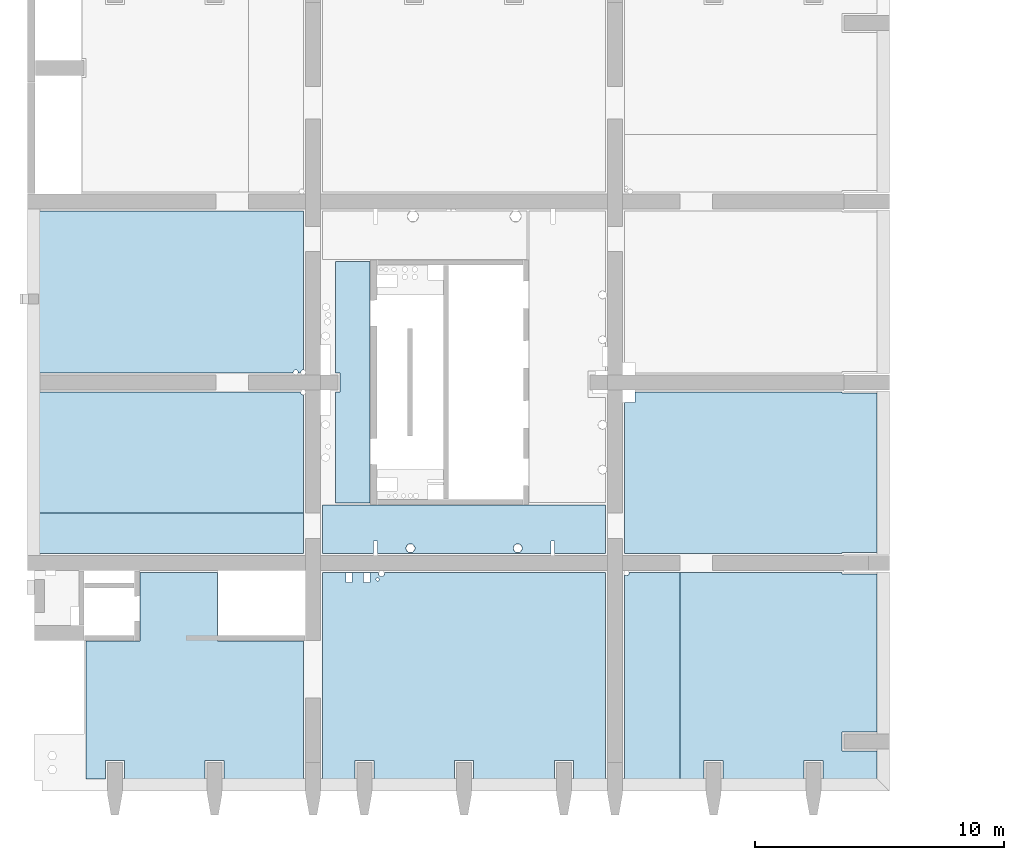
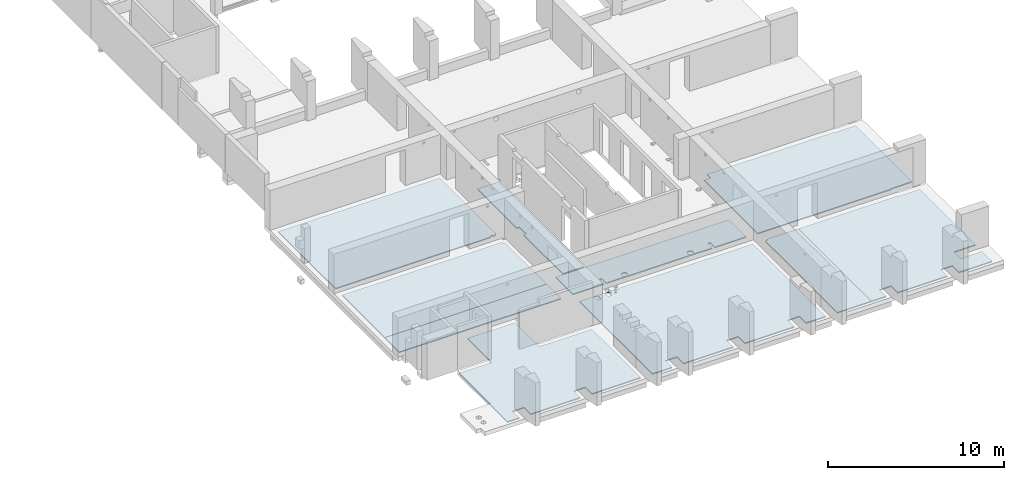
# One storey, part 5 of 10: 10 slabs, 66 openings.
"""IFC2X3 building model written with IfcOpenShell, lengths in millimetres."""

from ifc_helpers import new_model, entity, si_unit, converted_unit, derived_unit, direction, frame, frame_2d, origin, origin_2d_with_axis, place, context, subcontext, project, spatial, polyline, rectangle, circle, outline, extrude, material, layer, layer_set, layer_usage, element, save


model = new_model("IFC2X3")

# Units and contexts
model_context = context("Model", 3, precision=0.01, world=origin(), true_north=direction((6.12303176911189e-17, 1.0)))
body_context = subcontext(model_context, "Body", "Model", "MODEL_VIEW")
ifc_project = project(units=[si_unit("LENGTHUNIT", "METRE", prefix="MILLI"), si_unit("AREAUNIT", "SQUARE_METRE"), si_unit("VOLUMEUNIT", "CUBIC_METRE"), converted_unit("PLANEANGLEUNIT", "DEGREE", entity("IfcRatioMeasure", 0.0174532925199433), si_unit("PLANEANGLEUNIT", "RADIAN"), dimensions=[0, 0, 0, 0, 0, 0, 0]), si_unit("MASSUNIT", "GRAM", prefix="KILO"), derived_unit("MASSDENSITYUNIT", [(si_unit("MASSUNIT", "GRAM", prefix="KILO"), 1), (si_unit("LENGTHUNIT", "METRE"), -3)]), si_unit("TIMEUNIT", "SECOND"), si_unit("FREQUENCYUNIT", "HERTZ"), si_unit("THERMODYNAMICTEMPERATUREUNIT", "DEGREE_CELSIUS"), derived_unit("THERMALTRANSMITTANCEUNIT", [(si_unit("MASSUNIT", "GRAM", prefix="KILO"), 1), (si_unit("THERMODYNAMICTEMPERATUREUNIT", "KELVIN"), -1), (si_unit("TIMEUNIT", "SECOND"), -3)]), derived_unit("VOLUMETRICFLOWRATEUNIT", [(si_unit("LENGTHUNIT", "METRE"), 3), (si_unit("TIMEUNIT", "SECOND"), -1)]), si_unit("ELECTRICCURRENTUNIT", "AMPERE"), si_unit("ELECTRICVOLTAGEUNIT", "VOLT"), si_unit("POWERUNIT", "WATT"), si_unit("FORCEUNIT", "NEWTON", prefix="KILO"), si_unit("ILLUMINANCEUNIT", "LUX"), si_unit("LUMINOUSFLUXUNIT", "LUMEN"), si_unit("LUMINOUSINTENSITYUNIT", "CANDELA"), derived_unit("USERDEFINED", [(si_unit("MASSUNIT", "GRAM", prefix="KILO"), -1), (si_unit("LENGTHUNIT", "METRE"), -2), (si_unit("TIMEUNIT", "SECOND"), 3), (si_unit("LUMINOUSFLUXUNIT", "LUMEN"), 1)]), derived_unit("LINEARVELOCITYUNIT", [(si_unit("LENGTHUNIT", "METRE"), 1), (si_unit("TIMEUNIT", "SECOND"), -1)]), si_unit("PRESSUREUNIT", "PASCAL"), derived_unit("USERDEFINED", [(si_unit("LENGTHUNIT", "METRE"), -2), (si_unit("MASSUNIT", "GRAM", prefix="KILO"), 1), (si_unit("TIMEUNIT", "SECOND"), -2)])], contexts=[model_context])

# Site, building, storey
site_placement = place(None, origin())
site = spatial("IfcSite", under=ifc_project, at=site_placement, Name="Default", CompositionType="ELEMENT")
building_placement = place(site_placement, origin())
building = spatial("IfcBuilding", under=site, at=building_placement, Name="niet gebruiken", CompositionType="ELEMENT")
storey_placement = place(building_placement, frame((0.0, 0.0, 9000.0)))
storey = spatial("IfcBuildingStorey", under=building, at=storey_placement, Name="02 tweede verdieping", CompositionType="ELEMENT", Elevation=9000.00000000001)

# Slab, openings
ifc_material = material(Name="NLRS_f2_beton prefab")
ifc_layer = layer(ifc_material, 70.0)
ifc_layer_set = layer_set([ifc_layer], Name="Floor:NLRS_23.21_FL_breedplaat d=70_gen")
ifc_layer_usage_1 = layer_usage(ifc_layer_set, "AXIS3", "POSITIVE", 0.0)
slab_1_placement = place(storey_placement, frame((124740.0, 1604.0, -360.0)))
slab_1 = element("IfcSlab", 1, at=slab_1_placement, inside=storey, material=ifc_layer_usage_1, Name="Floor:NLRS_23.21_FL_breedplaat d=70_gen", ObjectType="Floor:NLRS_23.21_FL_breedplaat d=70_gen", PredefinedType="FLOOR", context=body_context, shape_type="SweptSolid", body=[
    extrude(outline(polyline([(10200.0, -5331.0), (10970.0, -5331.0), (10970.0, 195.0), (8810.0, 195.0), (8810.0, 2935.0), (5700.0, 2935.0), (5700.0, 195.0), (2250.0, 195.0), (2250.0, -5331.0), (5440.0, -5331.0), (5440.0, -4585.0), (6200.0, -4585.0), (6200.0, -5331.0), (9440.0, -5331.0), (9440.0, -4585.0), (10200.0, -4585.0), (10200.0, -5331.0)])), frame((12830.0, 5331.0, 70.0), z_axis=(0.0, 0.0, -1.0), x_axis=(-1.0, 0.0, 0.0)), (0.0, 0.0, 1.0), 70.0000000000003),
])
placement_1 = place(slab_1_placement, origin())
element("IfcOpeningElement", 2, at=placement_1, cuts=slab_1, ObjectType="Opening", context=body_context, shape_type="SweptSolid", body=[
    extrude(circle(Radius=120.0, at=origin_2d_with_axis()), frame((13700.0, 8226.0, 0.0), z_axis=(0.0, 0.0, 1.0), x_axis=(-1.0, 0.0, 0.0)), (0.0, 0.0, 1.0), 270.0),
])
placement_2 = place(slab_1_placement, origin())
element("IfcOpeningElement", 3, at=placement_2, cuts=slab_1, ObjectType="Opening", context=body_context, shape_type="SweptSolid", body=[
    extrude(circle(Radius=100.0, at=origin_2d_with_axis()), frame((23520.0, 8246.0, 0.0), z_axis=(0.0, 0.0, 1.0), x_axis=(-1.0, 0.0, 0.0)), (0.0, 0.0, 1.0), 270.0),
])
placement_3 = place(slab_1_placement, origin())
element("IfcOpeningElement", 4, at=placement_3, cuts=slab_1, ObjectType="Opening", context=body_context, shape_type="SweptSolid", body=[
    extrude(rectangle(XDim=380.0, YDim=249.999999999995, at=origin_2d_with_axis()), frame((13106.0, 8056.0, 0.0), z_axis=(0.0, 0.0, 1.0), x_axis=(0.0, -1.0, 0.0)), (0.0, 0.0, 1.0), 270.0),
])
placement_4 = place(slab_1_placement, origin())
element("IfcOpeningElement", 5, at=placement_4, cuts=slab_1, ObjectType="Opening", context=body_context, shape_type="SweptSolid", body=[
    extrude(rectangle(XDim=300.000000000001, YDim=1200.0, at=origin_2d_with_axis()), frame((24810.0, 8606.0, 100.0), z_axis=(0.0, 0.0, 1.0), x_axis=(-1.0, 0.0, 0.0)), (0.0, 0.0, 1.0), 100.0),
])
placement_5 = place(slab_1_placement, origin())
element("IfcOpeningElement", 6, at=placement_5, cuts=slab_1, ObjectType="Opening", context=body_context, shape_type="SweptSolid", body=[
    extrude(rectangle(XDim=380.0, YDim=249.999999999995, at=origin_2d_with_axis()), frame((12396.0, 8056.0, 0.0), z_axis=(0.0, 0.0, 1.0), x_axis=(0.0, -1.0, 0.0)), (0.0, 0.0, 1.0), 270.0),
])
placement_6 = place(slab_1_placement, origin())
element("IfcOpeningElement", 7, at=placement_6, cuts=slab_1, ObjectType="Opening", context=body_context, shape_type="SweptSolid", body=[
    extrude(circle(Radius=62.5, at=origin_2d_with_axis()), frame((13542.0, 7996.0, 0.0), z_axis=(0.0, 0.0, 1.0), x_axis=(-1.0, 0.0, 0.0)), (0.0, 0.0, 1.0), 270.0),
])

slab_2_placement = place(storey_placement, frame((124740.0, 1604.0, -360.0)))
slab_2 = element("IfcSlab", 8, at=slab_2_placement, inside=storey, material=ifc_layer_usage_1, Name="Floor:NLRS_23.21_FL_breedplaat d=70_gen:2", ObjectType="Floor:NLRS_23.21_FL_breedplaat d=70_gen", PredefinedType="FLOOR", context=body_context, shape_type="SweptSolid", body=[
    extrude(rectangle(XDim=8265.99999999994, YDim=2219.99999999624, at=frame_2d((-11720.0, -1198.0), x_axis=(0.0, -1.0))), frame((12830.0, 5331.0, 70.0), z_axis=(0.0, 0.0, -1.0), x_axis=(-1.0, 0.0, 0.0)), (0.0, 0.0, 1.0), 70.0000000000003),
])
element("IfcOpeningElement", 9, at=placement_1, cuts=slab_2, ObjectType="Opening", context=body_context, shape_type="SweptSolid", body=[
    extrude(circle(Radius=120.0, at=origin_2d_with_axis()), frame((13700.0, 8226.0, 0.0), z_axis=(0.0, 0.0, 1.0), x_axis=(-1.0, 0.0, 0.0)), (0.0, 0.0, 1.0), 270.0),
])
element("IfcOpeningElement", 10, at=placement_2, cuts=slab_2, ObjectType="Opening", context=body_context, shape_type="SweptSolid", body=[
    extrude(circle(Radius=100.0, at=origin_2d_with_axis()), frame((23520.0, 8246.0, 0.0), z_axis=(0.0, 0.0, 1.0), x_axis=(-1.0, 0.0, 0.0)), (0.0, 0.0, 1.0), 270.0),
])
element("IfcOpeningElement", 11, at=placement_3, cuts=slab_2, ObjectType="Opening", context=body_context, shape_type="SweptSolid", body=[
    extrude(rectangle(XDim=380.0, YDim=249.999999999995, at=origin_2d_with_axis()), frame((13106.0, 8056.0, 0.0), z_axis=(0.0, 0.0, 1.0), x_axis=(0.0, -1.0, 0.0)), (0.0, 0.0, 1.0), 270.0),
])
element("IfcOpeningElement", 12, at=placement_4, cuts=slab_2, ObjectType="Opening", context=body_context, shape_type="SweptSolid", body=[
    extrude(rectangle(XDim=300.000000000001, YDim=1200.0, at=origin_2d_with_axis()), frame((24810.0, 8606.0, 100.0), z_axis=(0.0, 0.0, 1.0), x_axis=(-1.0, 0.0, 0.0)), (0.0, 0.0, 1.0), 100.0),
])
element("IfcOpeningElement", 13, at=placement_5, cuts=slab_2, ObjectType="Opening", context=body_context, shape_type="SweptSolid", body=[
    extrude(rectangle(XDim=380.0, YDim=249.999999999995, at=origin_2d_with_axis()), frame((12396.0, 8056.0, 0.0), z_axis=(0.0, 0.0, 1.0), x_axis=(0.0, -1.0, 0.0)), (0.0, 0.0, 1.0), 270.0),
])
element("IfcOpeningElement", 14, at=placement_6, cuts=slab_2, ObjectType="Opening", context=body_context, shape_type="SweptSolid", body=[
    extrude(circle(Radius=62.5, at=origin_2d_with_axis()), frame((13542.0, 7996.0, 0.0), z_axis=(0.0, 0.0, 1.0), x_axis=(-1.0, 0.0, 0.0)), (0.0, 0.0, 1.0), 270.0),
])

slab_3_placement = place(storey_placement, frame((124740.0, 1604.0, -360.0)))
slab_3 = element("IfcSlab", 15, at=slab_3_placement, inside=storey, material=ifc_layer_usage_1, Name="Floor:NLRS_23.21_FL_breedplaat d=70_gen:3", ObjectType="Floor:NLRS_23.21_FL_breedplaat d=70_gen", PredefinedType="FLOOR", context=body_context, shape_type="SweptSolid", body=[
    extrude(outline(polyline([(1490.0, -5331.0), (1490.0, 2935.0), (-9850.0, 2935.0), (-9850.0, -5331.0), (-8560.0, -5331.0), (-8560.0, -4585.0), (-7800.0, -4585.0), (-7800.0, -5331.0), (-4560.0, -5331.0), (-4560.0, -4585.0), (-3800.0, -4585.0), (-3800.0, -5331.0), (-560.0, -5331.0), (-560.0, -4585.0), (200.0, -4585.0), (200.0, -5331.0), (1490.0, -5331.0)])), frame((12830.0, 5331.0, 70.0), z_axis=(0.0, 0.0, -1.0), x_axis=(-1.0, 0.0, 0.0)), (0.0, 0.0, 1.0), 70.0000000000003),
])
element("IfcOpeningElement", 16, at=placement_1, cuts=slab_3, ObjectType="Opening", context=body_context, shape_type="SweptSolid", body=[
    extrude(circle(Radius=120.0, at=origin_2d_with_axis()), frame((13700.0, 8226.0, 0.0), z_axis=(0.0, 0.0, 1.0), x_axis=(-1.0, 0.0, 0.0)), (0.0, 0.0, 1.0), 270.0),
])
element("IfcOpeningElement", 17, at=placement_2, cuts=slab_3, ObjectType="Opening", context=body_context, shape_type="SweptSolid", body=[
    extrude(circle(Radius=100.0, at=origin_2d_with_axis()), frame((23520.0, 8246.0, 0.0), z_axis=(0.0, 0.0, 1.0), x_axis=(-1.0, 0.0, 0.0)), (0.0, 0.0, 1.0), 270.0),
])
element("IfcOpeningElement", 18, at=placement_3, cuts=slab_3, ObjectType="Opening", context=body_context, shape_type="SweptSolid", body=[
    extrude(rectangle(XDim=380.0, YDim=249.999999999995, at=origin_2d_with_axis()), frame((13106.0, 8056.0, 0.0), z_axis=(0.0, 0.0, 1.0), x_axis=(0.0, -1.0, 0.0)), (0.0, 0.0, 1.0), 270.0),
])
element("IfcOpeningElement", 19, at=placement_4, cuts=slab_3, ObjectType="Opening", context=body_context, shape_type="SweptSolid", body=[
    extrude(rectangle(XDim=300.000000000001, YDim=1200.0, at=origin_2d_with_axis()), frame((24810.0, 8606.0, 100.0), z_axis=(0.0, 0.0, 1.0), x_axis=(-1.0, 0.0, 0.0)), (0.0, 0.0, 1.0), 100.0),
])
element("IfcOpeningElement", 20, at=placement_5, cuts=slab_3, ObjectType="Opening", context=body_context, shape_type="SweptSolid", body=[
    extrude(rectangle(XDim=380.0, YDim=249.999999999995, at=origin_2d_with_axis()), frame((12396.0, 8056.0, 0.0), z_axis=(0.0, 0.0, 1.0), x_axis=(0.0, -1.0, 0.0)), (0.0, 0.0, 1.0), 270.0),
])
element("IfcOpeningElement", 21, at=placement_6, cuts=slab_3, ObjectType="Opening", context=body_context, shape_type="SweptSolid", body=[
    extrude(circle(Radius=62.5, at=origin_2d_with_axis()), frame((13542.0, 7996.0, 0.0), z_axis=(0.0, 0.0, 1.0), x_axis=(-1.0, 0.0, 0.0)), (0.0, 0.0, 1.0), 270.0),
])

slab_4_placement = place(storey_placement, frame((124740.0, 1604.0, -360.0)))
slab_4 = element("IfcSlab", 22, at=slab_4_placement, inside=storey, material=ifc_layer_usage_1, Name="Floor:NLRS_23.21_FL_breedplaat d=70_gen:4", ObjectType="Floor:NLRS_23.21_FL_breedplaat d=70_gen", PredefinedType="FLOOR", context=body_context, shape_type="SweptSolid", body=[
    extrude(rectangle(XDim=10579.9999999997, YDim=1635.99999999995, at=frame_2d((7540.0, 4513.0), x_axis=(-1.0, 0.0))), frame((12830.0, 5331.0, 70.0), z_axis=(0.0, 0.0, -1.0), x_axis=(-1.0, 0.0, 0.0)), (0.0, 0.0, 1.0), 70.0000000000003),
])
element("IfcOpeningElement", 23, at=placement_1, cuts=slab_4, ObjectType="Opening", context=body_context, shape_type="SweptSolid", body=[
    extrude(circle(Radius=120.0, at=origin_2d_with_axis()), frame((13700.0, 8226.0, 0.0), z_axis=(0.0, 0.0, 1.0), x_axis=(-1.0, 0.0, 0.0)), (0.0, 0.0, 1.0), 270.0),
])
element("IfcOpeningElement", 24, at=placement_2, cuts=slab_4, ObjectType="Opening", context=body_context, shape_type="SweptSolid", body=[
    extrude(circle(Radius=100.0, at=origin_2d_with_axis()), frame((23520.0, 8246.0, 0.0), z_axis=(0.0, 0.0, 1.0), x_axis=(-1.0, 0.0, 0.0)), (0.0, 0.0, 1.0), 270.0),
])
element("IfcOpeningElement", 25, at=placement_3, cuts=slab_4, ObjectType="Opening", context=body_context, shape_type="SweptSolid", body=[
    extrude(rectangle(XDim=380.0, YDim=249.999999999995, at=origin_2d_with_axis()), frame((13106.0, 8056.0, 0.0), z_axis=(0.0, 0.0, 1.0), x_axis=(0.0, -1.0, 0.0)), (0.0, 0.0, 1.0), 270.0),
])
element("IfcOpeningElement", 26, at=placement_4, cuts=slab_4, ObjectType="Opening", context=body_context, shape_type="SweptSolid", body=[
    extrude(rectangle(XDim=300.000000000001, YDim=1200.0, at=origin_2d_with_axis()), frame((24810.0, 8606.0, 100.0), z_axis=(0.0, 0.0, 1.0), x_axis=(-1.0, 0.0, 0.0)), (0.0, 0.0, 1.0), 100.0),
])
element("IfcOpeningElement", 27, at=placement_5, cuts=slab_4, ObjectType="Opening", context=body_context, shape_type="SweptSolid", body=[
    extrude(rectangle(XDim=380.0, YDim=249.999999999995, at=origin_2d_with_axis()), frame((12396.0, 8056.0, 0.0), z_axis=(0.0, 0.0, 1.0), x_axis=(0.0, -1.0, 0.0)), (0.0, 0.0, 1.0), 270.0),
])
element("IfcOpeningElement", 28, at=placement_6, cuts=slab_4, ObjectType="Opening", context=body_context, shape_type="SweptSolid", body=[
    extrude(circle(Radius=62.5, at=origin_2d_with_axis()), frame((13542.0, 7996.0, 0.0), z_axis=(0.0, 0.0, 1.0), x_axis=(-1.0, 0.0, 0.0)), (0.0, 0.0, 1.0), 270.0),
])

ifc_layer_usage_2 = layer_usage(ifc_layer_set, "AXIS3", "POSITIVE", 0.0)
slab_5_placement = place(storey_placement, frame((148180.0, 1604.0, -360.0)))
slab_5 = element("IfcSlab", 29, at=slab_5_placement, inside=storey, material=ifc_layer_usage_2, Name="Floor:NLRS_23.21_FL_breedplaat d=70_gen:2", ObjectType="Floor:NLRS_23.21_FL_breedplaat d=70_gen", PredefinedType="FLOOR", context=body_context, shape_type="SweptSolid", body=[
    extrude(outline(polyline([(-3655.17037086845, -11042.0), (-3655.17037086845, -11802.0), (-5064.82962913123, -11802.0), (-5064.82962913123, -12918.0), (-2885.17037086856, -12918.0), (-2885.17037086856, -12172.0), (-2125.17037086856, -12172.0), (-2125.17037086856, -12918.0), (1114.82962913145, -12918.0), (1114.82962913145, -12172.0), (1874.82962913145, -12172.0), (1874.82962913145, -12918.0), (2844.82962913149, -12918.0), (2844.82962913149, -4652.0), (-3655.17037086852, -4652.0), (-3655.17037086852, -4702.0), (-5064.82962913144, -4702.0), (-5064.82962913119, -11042.0), (-3655.17037086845, -11042.0)])), frame((5064.82962913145, 12918.0, 70.0), z_axis=(0.0, 0.0, -1.0), x_axis=(-1.0, 0.0, 0.0)), (0.0, 0.0, 1.0), 70.0000000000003),
])
placement_7 = place(storey_placement, frame((148180.0, 1604.0, -360.0)))
placement_8 = place(placement_7, origin())
element("IfcOpeningElement", 30, at=placement_8, cuts=slab_5, ObjectType="Opening", context=body_context, shape_type="SweptSolid", body=[
    extrude(rectangle(XDim=500.000000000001, YDim=500.000000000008, at=origin_2d_with_axis()), frame((170.0, 15346.0, 0.0), z_axis=(0.0, 0.0, 1.0), x_axis=(0.0, 1.0, 0.0)), (0.0, 0.0, 1.0), 270.0),
])
placement_9 = place(placement_7, origin())
element("IfcOpeningElement", 31, at=placement_9, cuts=slab_5, ObjectType="Opening", context=body_context, shape_type="SweptSolid", body=[
    extrude(rectangle(XDim=500.000000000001, YDim=500.000000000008, at=origin_2d_with_axis()), frame((170.0, 16446.0, 0.0), z_axis=(0.0, 0.0, 1.0), x_axis=(0.0, 1.0, 0.0)), (0.0, 0.0, 1.0), 270.0),
])
placement_10 = place(placement_7, origin())
element("IfcOpeningElement", 32, at=placement_10, cuts=slab_5, ObjectType="Opening", context=body_context, shape_type="SweptSolid", body=[
    extrude(circle(Radius=100.0, at=origin_2d_with_axis()), frame((222.0, 23546.0, 0.0), z_axis=(0.0, 0.0, 1.0), x_axis=(-1.0, 0.0, 0.0)), (0.0, 0.0, 1.0), 270.0),
])
placement_11 = place(placement_7, origin())
element("IfcOpeningElement", 33, at=placement_11, cuts=slab_5, ObjectType="Opening", context=body_context, shape_type="SweptSolid", body=[
    extrude(rectangle(XDim=300.000000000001, YDim=1200.0, at=origin_2d_with_axis()), frame((4570.0, 8606.0, 100.0), z_axis=(0.0, 0.0, 1.0), x_axis=(-1.0, 0.0, 0.0)), (0.0, 0.0, 1.0), 100.0),
])
placement_12 = place(placement_7, origin())
element("IfcOpeningElement", 34, at=placement_12, cuts=slab_5, ObjectType="Opening", context=body_context, shape_type="SweptSolid", body=[
    extrude(circle(Radius=62.5, at=origin_2d_with_axis()), frame((70.0, 23696.0, 0.0), z_axis=(0.0, 0.0, 1.0), x_axis=(-1.0, 0.0, 0.0)), (0.0, 0.0, 1.0), 270.0),
])

slab_6_placement = place(storey_placement, frame((148180.0, 1604.0, -360.0)))
slab_6 = element("IfcSlab", 35, at=slab_6_placement, inside=storey, material=ifc_layer_usage_2, Name="Floor:NLRS_23.21_FL_breedplaat d=70_gen:3", ObjectType="Floor:NLRS_23.21_FL_breedplaat d=70_gen", PredefinedType="FLOOR", context=body_context, shape_type="SweptSolid", body=[
    extrude(outline(polyline([(-3655.17037086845, -3892.0), (5064.82962913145, -3892.0), (5064.82962913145, 2598.0), (-3655.17037086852, 2598.0), (-3655.17037086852, 2548.0), (-5064.82962913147, 2548.0), (-5064.82962913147, -3842.0), (-3655.17037086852, -3842.0), (-3655.17037086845, -3892.0)])), frame((5064.82962913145, 12918.0, 70.0), z_axis=(0.0, 0.0, -1.0), x_axis=(-1.0, 0.0, 0.0)), (0.0, 0.0, 1.0), 70.0000000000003),
])
element("IfcOpeningElement", 36, at=placement_8, cuts=slab_6, ObjectType="Opening", context=body_context, shape_type="SweptSolid", body=[
    extrude(rectangle(XDim=500.000000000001, YDim=500.000000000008, at=origin_2d_with_axis()), frame((170.0, 15346.0, 0.0), z_axis=(0.0, 0.0, 1.0), x_axis=(0.0, 1.0, 0.0)), (0.0, 0.0, 1.0), 270.0),
])
element("IfcOpeningElement", 37, at=placement_9, cuts=slab_6, ObjectType="Opening", context=body_context, shape_type="SweptSolid", body=[
    extrude(rectangle(XDim=500.000000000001, YDim=500.000000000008, at=origin_2d_with_axis()), frame((170.0, 16446.0, 0.0), z_axis=(0.0, 0.0, 1.0), x_axis=(0.0, 1.0, 0.0)), (0.0, 0.0, 1.0), 270.0),
])
element("IfcOpeningElement", 38, at=placement_10, cuts=slab_6, ObjectType="Opening", context=body_context, shape_type="SweptSolid", body=[
    extrude(circle(Radius=100.0, at=origin_2d_with_axis()), frame((222.0, 23546.0, 0.0), z_axis=(0.0, 0.0, 1.0), x_axis=(-1.0, 0.0, 0.0)), (0.0, 0.0, 1.0), 270.0),
])
element("IfcOpeningElement", 39, at=placement_11, cuts=slab_6, ObjectType="Opening", context=body_context, shape_type="SweptSolid", body=[
    extrude(rectangle(XDim=300.000000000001, YDim=1200.0, at=origin_2d_with_axis()), frame((4570.0, 8606.0, 100.0), z_axis=(0.0, 0.0, 1.0), x_axis=(-1.0, 0.0, 0.0)), (0.0, 0.0, 1.0), 100.0),
])
element("IfcOpeningElement", 40, at=placement_12, cuts=slab_6, ObjectType="Opening", context=body_context, shape_type="SweptSolid", body=[
    extrude(circle(Radius=62.5, at=origin_2d_with_axis()), frame((70.0, 23696.0, 0.0), z_axis=(0.0, 0.0, 1.0), x_axis=(-1.0, 0.0, 0.0)), (0.0, 0.0, 1.0), 270.0),
])

ifc_layer_usage_3 = layer_usage(ifc_layer_set, "AXIS3", "POSITIVE", 0.0)
slab_7_placement = place(storey_placement, frame((124740.0, 12266.0, -360.0)))
slab_7 = element("IfcSlab", 41, at=slab_7_placement, inside=storey, material=ifc_layer_usage_3, Name="Floor:NLRS_23.21_FL_breedplaat d=70_gen:2", ObjectType="Floor:NLRS_23.21_FL_breedplaat d=70_gen", PredefinedType="FLOOR", context=body_context, shape_type="SweptSolid", body=[
    extrude(rectangle(XDim=6490.00000000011, YDim=10579.9999999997, at=frame_2d((0.0, -1478.0), x_axis=(0.0, -1.0))), frame((5290.0, 10337.0, 70.0), z_axis=(0.0, 0.0, -1.0), x_axis=(-1.0, 0.0, 0.0)), (0.0, 0.0, 1.0), 70.0000000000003),
])
placement_13 = place(storey_placement, frame((124740.0, 12266.0, -360.0)))
placement_14 = place(placement_13, origin())
element("IfcOpeningElement", 42, at=placement_14, cuts=slab_7, ObjectType="Opening", context=body_context, shape_type="SweptSolid", body=[
    extrude(circle(Radius=100.0, at=origin_2d_with_axis()), frame((10260.0, 5634.0, 0.0), z_axis=(0.0, 0.0, 1.0), x_axis=(-1.0, 0.0, 0.0)), (0.0, 0.0, 1.0), 270.0),
])
placement_15 = place(placement_13, origin())
element("IfcOpeningElement", 43, at=placement_15, cuts=slab_7, ObjectType="Opening", context=body_context, shape_type="SweptSolid", body=[
    extrude(circle(Radius=100.0, at=origin_2d_with_axis()), frame((10560.0, 5634.0, 0.0), z_axis=(0.0, 0.0, 1.0), x_axis=(-1.0, 0.0, 0.0)), (0.0, 0.0, 1.0), 270.0),
])
placement_16 = place(placement_13, origin())
element("IfcOpeningElement", 44, at=placement_16, cuts=slab_7, ObjectType="Opening", context=body_context, shape_type="SweptSolid", body=[
    extrude(circle(Radius=100.0, at=origin_2d_with_axis()), frame((10560.0, 4834.0, 0.0), z_axis=(0.0, 0.0, 1.0), x_axis=(-1.0, 0.0, 0.0)), (0.0, 0.0, 1.0), 270.0),
])

slab_8_placement = place(storey_placement, frame((124740.0, 12266.0, -360.0)))
slab_8 = element("IfcSlab", 45, at=slab_8_placement, inside=storey, material=ifc_layer_usage_3, Name="Floor:NLRS_23.21_FL_breedplaat d=70_gen:3", ObjectType="Floor:NLRS_23.21_FL_breedplaat d=70_gen", PredefinedType="FLOOR", context=body_context, shape_type="SweptSolid", body=[
    extrude(rectangle(XDim=10579.9999999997, YDim=4854.00000000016, at=frame_2d((0.0, -7910.0), x_axis=(-1.0, 0.0))), frame((5290.0, 10337.0, 70.0), z_axis=(0.0, 0.0, -1.0), x_axis=(-1.0, 0.0, 0.0)), (0.0, 0.0, 1.0), 70.0000000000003),
])
element("IfcOpeningElement", 46, at=placement_14, cuts=slab_8, ObjectType="Opening", context=body_context, shape_type="SweptSolid", body=[
    extrude(circle(Radius=100.0, at=origin_2d_with_axis()), frame((10260.0, 5634.0, 0.0), z_axis=(0.0, 0.0, 1.0), x_axis=(-1.0, 0.0, 0.0)), (0.0, 0.0, 1.0), 270.0),
])
element("IfcOpeningElement", 47, at=placement_15, cuts=slab_8, ObjectType="Opening", context=body_context, shape_type="SweptSolid", body=[
    extrude(circle(Radius=100.0, at=origin_2d_with_axis()), frame((10560.0, 5634.0, 0.0), z_axis=(0.0, 0.0, 1.0), x_axis=(-1.0, 0.0, 0.0)), (0.0, 0.0, 1.0), 270.0),
])
element("IfcOpeningElement", 48, at=placement_16, cuts=slab_8, ObjectType="Opening", context=body_context, shape_type="SweptSolid", body=[
    extrude(circle(Radius=100.0, at=origin_2d_with_axis()), frame((10560.0, 4834.0, 0.0), z_axis=(0.0, 0.0, 1.0), x_axis=(-1.0, 0.0, 0.0)), (0.0, 0.0, 1.0), 270.0),
])

ifc_layer_usage_4 = layer_usage(ifc_layer_set, "AXIS3", "POSITIVE", 0.0)
slab_9_placement = place(storey_placement, frame((136080.0, 10630.0, -330.0)))
slab_9 = element("IfcSlab", 49, at=slab_9_placement, inside=storey, material=ifc_layer_usage_4, Name="Floor:NLRS_23.21_FL_breedplaat d=70_gen", ObjectType="Floor:NLRS_23.21_FL_breedplaat d=70_gen", PredefinedType="FLOOR", context=body_context, shape_type="SweptSolid", body=[
    extrude(outline(polyline([(5150.0, -4840.0), (5150.0, -380.0), (4970.0, -380.0), (4970.0, 380.0), (5150.0, 380.0), (5150.0, 4850.0), (3770.0, 4850.0), (3770.0, -4840.0), (5150.0, -4840.0)])), frame((5670.0, 6870.0, 70.0), z_axis=(0.0, 0.0, -1.0), x_axis=(-1.0, 0.0, 0.0)), (0.0, 0.0, 1.0), 70.0000000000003),
])
placement_17 = place(slab_9_placement, origin())
element("IfcOpeningElement", 50, at=placement_17, cuts=slab_9, ObjectType="Opening", context=body_context, shape_type="SweptSolid", body=[
    extrude(rectangle(XDim=150.000000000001, YDim=590.000000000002, at=origin_2d_with_axis()), frame((2120.03236940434, 214.908594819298, 0.0)), (0.0, 0.0, 1.0), 240.0),
])
placement_18 = place(slab_9_placement, origin())
element("IfcOpeningElement", 51, at=placement_18, cuts=slab_9, ObjectType="Opening", context=body_context, shape_type="SweptSolid", body=[
    extrude(rectangle(XDim=150.000000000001, YDim=600.000000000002, at=origin_2d_with_axis()), frame((9236.0, 13520.0, 0.0)), (0.0, 0.0, 1.0), 240.0),
])
placement_19 = place(slab_9_placement, origin())
element("IfcOpeningElement", 52, at=placement_19, cuts=slab_9, ObjectType="Opening", context=body_context, shape_type="SweptSolid", body=[
    extrude(circle(Radius=177.5, at=origin_2d_with_axis()), frame((11219.0502495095, 3370.0, 0.0), z_axis=(0.0, 0.0, 1.0), x_axis=(0.0, 1.0, 0.0)), (0.0, 0.0, 1.0), 240.0),
])
placement_20 = place(slab_9_placement, origin())
element("IfcOpeningElement", 53, at=placement_20, cuts=slab_9, ObjectType="Opening", context=body_context, shape_type="SweptSolid", body=[
    extrude(circle(Radius=177.5, at=origin_2d_with_axis()), frame((11220.0, 5165.0, 0.0), z_axis=(0.0, 0.0, 1.0), x_axis=(0.0, 1.0, 0.0)), (0.0, 0.0, 1.0), 240.0),
])
placement_21 = place(slab_9_placement, origin())
element("IfcOpeningElement", 54, at=placement_21, cuts=slab_9, ObjectType="Opening", context=body_context, shape_type="SweptSolid", body=[
    extrude(rectangle(XDim=800.000000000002, YDim=200.000000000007, at=origin_2d_with_axis()), frame((11320.0, 7894.66819096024, 0.0), z_axis=(0.0, 0.0, 1.0), x_axis=(0.0, -1.0, 0.0)), (0.0, 0.0, 1.0), 240.0),
])
placement_22 = place(slab_9_placement, origin())
element("IfcOpeningElement", 55, at=placement_22, cuts=slab_9, ObjectType="Opening", context=body_context, shape_type="SweptSolid", body=[
    extrude(circle(Radius=225.0, at=origin_2d_with_axis()), frame((3618.0, 13520.0, 0.0), z_axis=(0.0, 0.0, 1.0), x_axis=(-1.0, 0.0, 0.0)), (0.0, 0.0, 1.0), 240.0),
])
placement_23 = place(slab_9_placement, origin())
element("IfcOpeningElement", 56, at=placement_23, cuts=slab_9, ObjectType="Opening", context=body_context, shape_type="SweptSolid", body=[
    extrude(circle(Radius=225.0, at=origin_2d_with_axis()), frame((7735.0, 13520.0, 0.0), z_axis=(0.0, 0.0, 1.0), x_axis=(-1.0, 0.0, 0.0)), (0.0, 0.0, 1.0), 240.0),
])
placement_24 = place(slab_9_placement, origin())
element("IfcOpeningElement", 57, at=placement_24, cuts=slab_9, ObjectType="Opening", context=body_context, shape_type="SweptSolid", body=[
    extrude(rectangle(XDim=150.000000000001, YDim=600.000000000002, at=origin_2d_with_axis()), frame((2115.0, 13520.0, 0.0)), (0.0, 0.0, 1.0), 240.0),
])
placement_25 = place(slab_9_placement, origin())
element("IfcOpeningElement", 58, at=placement_25, cuts=slab_9, ObjectType="Opening", context=body_context, shape_type="SweptSolid", body=[
    extrude(circle(Radius=157.5, at=origin_2d_with_axis()), frame((11220.0, 10373.5054766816, 0.0), z_axis=(0.0, 0.0, 1.0), x_axis=(0.0, 1.0, 0.0)), (0.0, 0.0, 1.0), 240.0),
])
placement_26 = place(slab_9_placement, origin())
element("IfcOpeningElement", 59, at=placement_26, cuts=slab_9, ObjectType="Opening", context=body_context, shape_type="SweptSolid", body=[
    extrude(circle(Radius=157.5, at=origin_2d_with_axis()), frame((11220.0, 8577.15038231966, 0.0), z_axis=(0.0, 0.0, 1.0), x_axis=(0.0, 1.0, 0.0)), (0.0, 0.0, 1.0), 240.0),
])
placement_27 = place(slab_9_placement, origin())
element("IfcOpeningElement", 60, at=placement_27, cuts=slab_9, ObjectType="Opening", context=body_context, shape_type="SweptSolid", body=[
    extrude(rectangle(XDim=150.000000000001, YDim=595.000000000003, at=origin_2d_with_axis()), frame((9222.0, 217.499999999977, 0.0)), (0.0, 0.0, 1.0), 240.0),
])
placement_28 = place(slab_9_placement, origin())
element("IfcOpeningElement", 61, at=placement_28, cuts=slab_9, ObjectType="Opening", context=body_context, shape_type="SweptSolid", body=[
    extrude(circle(Radius=177.5, at=origin_2d_with_axis()), frame((3520.0, 220.0, 0.0), z_axis=(0.0, 0.0, 1.0), x_axis=(-1.0, 0.0, 0.0)), (0.0, 0.0, 1.0), 240.0),
])
placement_29 = place(slab_9_placement, origin())
element("IfcOpeningElement", 62, at=placement_29, cuts=slab_9, ObjectType="Opening", context=body_context, shape_type="SweptSolid", body=[
    extrude(circle(Radius=177.5, at=origin_2d_with_axis()), frame((7820.0, 220.0, 0.0), z_axis=(0.0, 0.0, 1.0), x_axis=(-1.0, 0.0, 0.0)), (0.0, 0.0, 1.0), 240.0),
])

slab_10_placement = place(storey_placement, frame((136080.0, 10630.0, -330.0)))
slab_10 = element("IfcSlab", 63, at=slab_10_placement, inside=storey, material=ifc_layer_usage_4, Name="Floor:NLRS_23.21_FL_breedplaat d=70_gen:2", ObjectType="Floor:NLRS_23.21_FL_breedplaat d=70_gen", PredefinedType="FLOOR", context=body_context, shape_type="SweptSolid", body=[
    extrude(rectangle(XDim=1949.99999999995, YDim=11340.0, at=frame_2d((0.0, -5895.0), x_axis=(0.0, 1.0))), frame((5670.0, 6870.0, 70.0), z_axis=(0.0, 0.0, -1.0), x_axis=(-1.0, 0.0, 0.0)), (0.0, 0.0, 1.0), 70.0000000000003),
])
element("IfcOpeningElement", 64, at=placement_17, cuts=slab_10, ObjectType="Opening", context=body_context, shape_type="SweptSolid", body=[
    extrude(rectangle(XDim=150.000000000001, YDim=590.000000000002, at=origin_2d_with_axis()), frame((2120.03236940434, 214.908594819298, 0.0)), (0.0, 0.0, 1.0), 240.0),
])
element("IfcOpeningElement", 65, at=placement_18, cuts=slab_10, ObjectType="Opening", context=body_context, shape_type="SweptSolid", body=[
    extrude(rectangle(XDim=150.000000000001, YDim=600.000000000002, at=origin_2d_with_axis()), frame((9236.0, 13520.0, 0.0)), (0.0, 0.0, 1.0), 240.0),
])
element("IfcOpeningElement", 66, at=placement_19, cuts=slab_10, ObjectType="Opening", context=body_context, shape_type="SweptSolid", body=[
    extrude(circle(Radius=177.5, at=origin_2d_with_axis()), frame((11219.0502495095, 3370.0, 0.0), z_axis=(0.0, 0.0, 1.0), x_axis=(0.0, 1.0, 0.0)), (0.0, 0.0, 1.0), 240.0),
])
element("IfcOpeningElement", 67, at=placement_20, cuts=slab_10, ObjectType="Opening", context=body_context, shape_type="SweptSolid", body=[
    extrude(circle(Radius=177.5, at=origin_2d_with_axis()), frame((11220.0, 5165.0, 0.0), z_axis=(0.0, 0.0, 1.0), x_axis=(0.0, 1.0, 0.0)), (0.0, 0.0, 1.0), 240.0),
])
element("IfcOpeningElement", 68, at=placement_21, cuts=slab_10, ObjectType="Opening", context=body_context, shape_type="SweptSolid", body=[
    extrude(rectangle(XDim=800.000000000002, YDim=200.000000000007, at=origin_2d_with_axis()), frame((11320.0, 7894.66819096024, 0.0), z_axis=(0.0, 0.0, 1.0), x_axis=(0.0, -1.0, 0.0)), (0.0, 0.0, 1.0), 240.0),
])
element("IfcOpeningElement", 69, at=placement_22, cuts=slab_10, ObjectType="Opening", context=body_context, shape_type="SweptSolid", body=[
    extrude(circle(Radius=225.0, at=origin_2d_with_axis()), frame((3618.0, 13520.0, 0.0), z_axis=(0.0, 0.0, 1.0), x_axis=(-1.0, 0.0, 0.0)), (0.0, 0.0, 1.0), 240.0),
])
element("IfcOpeningElement", 70, at=placement_23, cuts=slab_10, ObjectType="Opening", context=body_context, shape_type="SweptSolid", body=[
    extrude(circle(Radius=225.0, at=origin_2d_with_axis()), frame((7735.0, 13520.0, 0.0), z_axis=(0.0, 0.0, 1.0), x_axis=(-1.0, 0.0, 0.0)), (0.0, 0.0, 1.0), 240.0),
])
element("IfcOpeningElement", 71, at=placement_24, cuts=slab_10, ObjectType="Opening", context=body_context, shape_type="SweptSolid", body=[
    extrude(rectangle(XDim=150.000000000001, YDim=600.000000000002, at=origin_2d_with_axis()), frame((2115.0, 13520.0, 0.0)), (0.0, 0.0, 1.0), 240.0),
])
element("IfcOpeningElement", 72, at=placement_25, cuts=slab_10, ObjectType="Opening", context=body_context, shape_type="SweptSolid", body=[
    extrude(circle(Radius=157.5, at=origin_2d_with_axis()), frame((11220.0, 10373.5054766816, 0.0), z_axis=(0.0, 0.0, 1.0), x_axis=(0.0, 1.0, 0.0)), (0.0, 0.0, 1.0), 240.0),
])
element("IfcOpeningElement", 73, at=placement_26, cuts=slab_10, ObjectType="Opening", context=body_context, shape_type="SweptSolid", body=[
    extrude(circle(Radius=157.5, at=origin_2d_with_axis()), frame((11220.0, 8577.15038231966, 0.0), z_axis=(0.0, 0.0, 1.0), x_axis=(0.0, 1.0, 0.0)), (0.0, 0.0, 1.0), 240.0),
])
element("IfcOpeningElement", 74, at=placement_27, cuts=slab_10, ObjectType="Opening", context=body_context, shape_type="SweptSolid", body=[
    extrude(rectangle(XDim=150.000000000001, YDim=595.000000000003, at=origin_2d_with_axis()), frame((9222.0, 217.499999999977, 0.0)), (0.0, 0.0, 1.0), 240.0),
])
element("IfcOpeningElement", 75, at=placement_28, cuts=slab_10, ObjectType="Opening", context=body_context, shape_type="SweptSolid", body=[
    extrude(circle(Radius=177.5, at=origin_2d_with_axis()), frame((3520.0, 220.0, 0.0), z_axis=(0.0, 0.0, 1.0), x_axis=(-1.0, 0.0, 0.0)), (0.0, 0.0, 1.0), 240.0),
])
element("IfcOpeningElement", 76, at=placement_29, cuts=slab_10, ObjectType="Opening", context=body_context, shape_type="SweptSolid", body=[
    extrude(circle(Radius=177.5, at=origin_2d_with_axis()), frame((7820.0, 220.0, 0.0), z_axis=(0.0, 0.0, 1.0), x_axis=(-1.0, 0.0, 0.0)), (0.0, 0.0, 1.0), 240.0),
])

save(model, "model.ifc")
